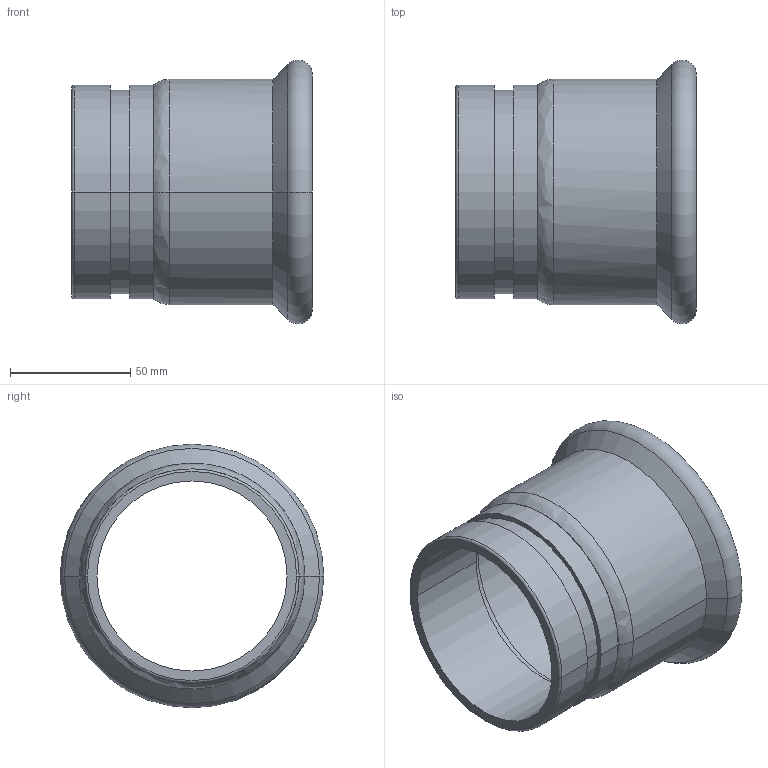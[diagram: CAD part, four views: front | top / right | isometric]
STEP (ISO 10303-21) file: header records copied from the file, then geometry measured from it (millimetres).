
FILE_DESCRIPTION(('CoCreate Modeling STEP Export'),'2;1');
FILE_NAME('C1442 88.9x88.9.stp','2015-08-11T 9:10:38',(''),(''),'CoCreate Modeling STEP processor for AP214 (Solid Model)','CoCreate Modeling 17.00A 17-Jun-2010 (C) Parametric Technology GmbH','');
FILE_SCHEMA(('AUTOMOTIVE_DESIGN { 1 0 10303 214 1 1 1 1 }'));
Length unit declared in the file: millimetre
Products named in the file (2): C1442-88.9x88.9
Assembly tree (1 placements, depth 2):
  C1442-88.9x88.9
    C1442-88.9x88.9
Bounding box: 100 x 109.48 x 109.48 mm (x, y, z)
Volume: 108437.3 mm3; surface area: 62991.8 mm2
Topology: 1 solids, 1 shells, 31 faces, 66 edges, 40 vertices
Faces by surface type: cylinder 14, cone 6, plane 5, torus 4, bspline 2
Entity records: 1051 total; most frequent: CARTESIAN_POINT 449, ORIENTED_EDGE 132, DIRECTION 98, EDGE_CURVE 66, VERTEX_POINT 40, AXIS2_PLACEMENT_3D 39, EDGE_LOOP 36, FACE_OUTER_BOUND 31
